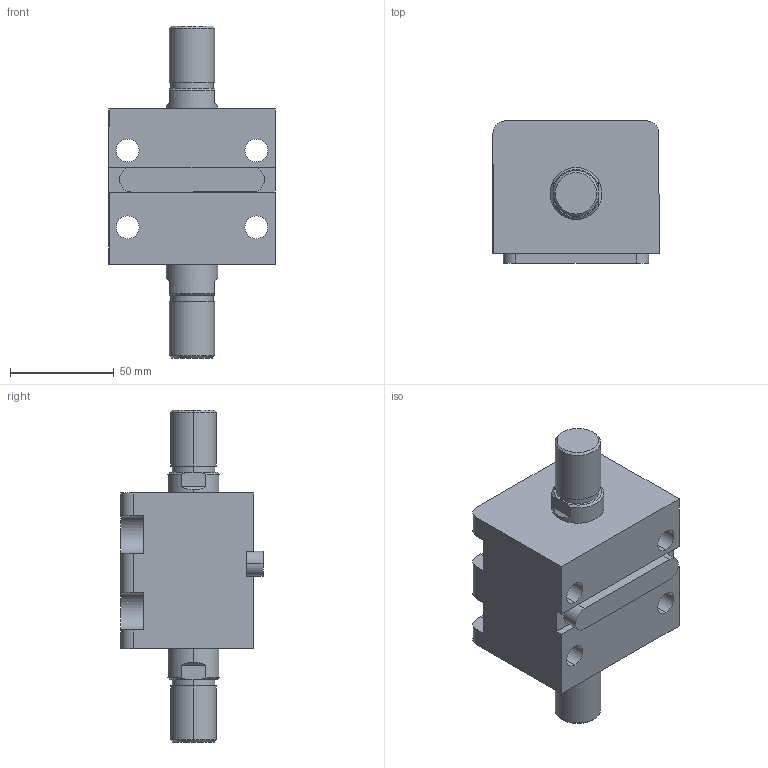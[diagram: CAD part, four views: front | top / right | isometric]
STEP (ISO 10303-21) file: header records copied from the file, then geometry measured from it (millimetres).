
FILE_DESCRIPTION (( 'STEP AP203' ), '1' );
FILE_NAME ('HTB-LW40-5W.STEP', '2019-10-09T07:53:00', ( '微软用户' ), ( '微软中国' ), 'SwSTEP 2.0', 'SolidWorks 2012', '' );
FILE_SCHEMA (( 'CONFIG_CONTROL_DESIGN' ));
Length unit declared in the file: millimetre
Products named in the file (4): HTB-LW40-5W; HTB-LA40-瑩; HTB-LW40-5W活塞杆; HTB-LW40-5掛极
Assembly tree (3 placements, depth 2):
  HTB-LW40-5W
    HTB-LW40-5掛极
    HTB-LW40-5W活塞杆
    HTB-LA40-瑩
Bounding box: 80 x 68.5 x 160 mm (x, y, z)
Volume: 381881.2 mm3; surface area: 66078.5 mm2
Topology: 3 solids, 3 shells, 113 faces, 273 edges, 178 vertices
Faces by surface type: plane 48, cylinder 45, cone 12, torus 8
Entity records: 3779 total; most frequent: CARTESIAN_POINT 622, DIRECTION 617, ORIENTED_EDGE 546, EDGE_CURVE 273, AXIS2_PLACEMENT_3D 241, VERTEX_POINT 178, EDGE_LOOP 135, VECTOR 135
